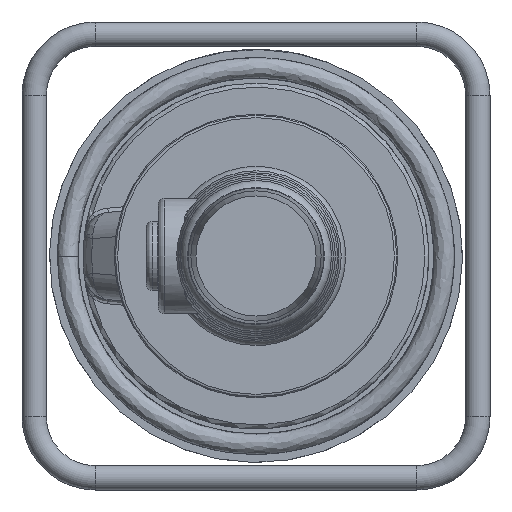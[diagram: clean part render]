
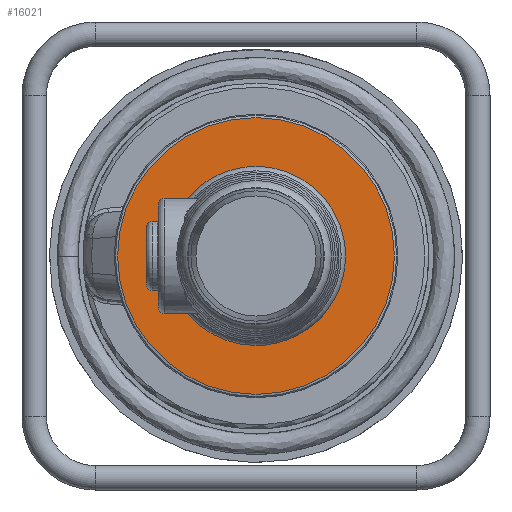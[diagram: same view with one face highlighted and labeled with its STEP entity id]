
A CAD part, left-side view. The second image highlights one B-rep face of the part: STEP entity #16021.
In plain terms, the highlighted planar face has unit normal (-1, 0, 0).
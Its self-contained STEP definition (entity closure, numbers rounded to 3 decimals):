
#1381=PLANE('',#17349);
#3896=FACE_OUTER_BOUND('',#4847,.T.);
#4847=EDGE_LOOP('',(#11396));
#6025=CIRCLE('',#17350,68.);
#6615=VERTEX_POINT('',#26544);
#8424=EDGE_CURVE('',#6615,#6615,#6025,.T.);
#11396=ORIENTED_EDGE('',*,*,#8424,.F.);
#16021=ADVANCED_FACE('',(#3896),#1381,.T.);
#17349=AXIS2_PLACEMENT_3D('',#26543,#19278,#19279);
#17350=AXIS2_PLACEMENT_3D('',#26545,#19280,#19281);
#19278=DIRECTION('center_axis',(-1.,0.,0.));
#19279=DIRECTION('ref_axis',(0.,-1.,0.));
#19280=DIRECTION('center_axis',(1.,0.,0.));
#19281=DIRECTION('ref_axis',(0.,0.,
-1.));
#26543=CARTESIAN_POINT('Origin',(-128.,0.,-55.5));
#26544=CARTESIAN_POINT('',(-128.,-68.,0.));
#26545=CARTESIAN_POINT('Origin',(-128.,0.,0.));
